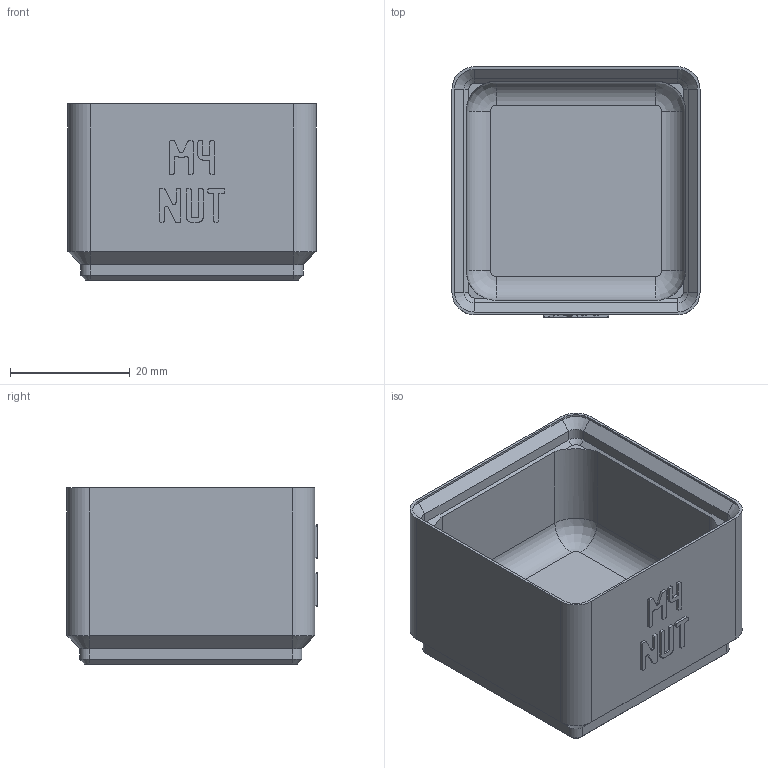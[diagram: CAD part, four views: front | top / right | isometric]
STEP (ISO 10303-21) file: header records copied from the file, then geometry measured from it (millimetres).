
FILE_DESCRIPTION(('Open CASCADE Model'),'2;1');
FILE_NAME('Open CASCADE Shape Model','2026-11-03T10:23:57',('Author'),( 'Open CASCADE'),'Open CASCADE STEP processor 8.0','build123d', 'Unknown');
FILE_SCHEMA(('AUTOMOTIVE_DESIGN { 1 0 10303 214 1 1 1 1 }'));
Length unit declared in the file: millimetre
Products named in the file (1): COMPOUND
Bounding box: 41.5 x 41.9 x 29.5 mm (x, y, z)
Volume: 18935.7 mm3; surface area: 10632.6 mm2
Topology: 1 solids, 1 shells, 506 faces, 1438 edges, 940 vertices
Faces by surface type: plane 462, cylinder 24, cone 16, revolution 4
Entity records: 33870 total; most frequent: CARTESIAN_POINT 6945, DIRECTION 4348, LINE 3182, VECTOR 3182, ORIENTED_EDGE 2876, PCURVE 2876, DEFINITIONAL_REPRESENTATION 2876, EDGE_CURVE 1438
